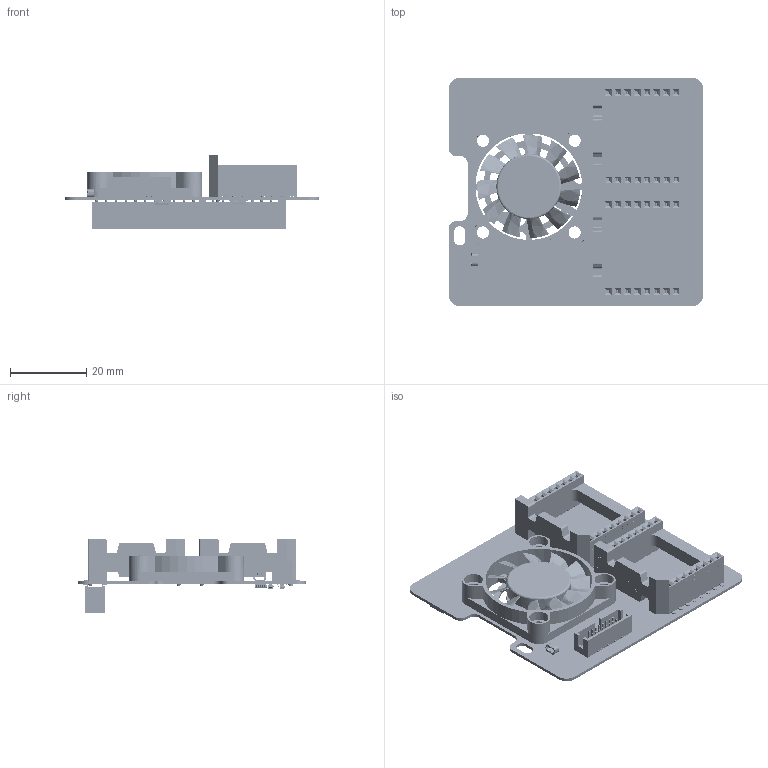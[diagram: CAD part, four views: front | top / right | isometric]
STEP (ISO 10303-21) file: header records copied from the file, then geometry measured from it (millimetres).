
FILE_DESCRIPTION(('Open CASCADE Model'),'2;1');
FILE_NAME('Open CASCADE Shape Model','2026-07-13T09:13:16',('Author'),( 'Open CASCADE'),'Open CASCADE STEP processor 7.5','Open CASCADE 7.5' ,'Unknown');
FILE_SCHEMA(('AUTOMOTIVE_DESIGN { 1 0 10303 214 1 1 1 1 }'));
Length unit declared in the file: millimetre
Products named in the file (1056): PCB; Board; Open CASCADE STEP translator 7.5 1.1.1; MB3; 10230245200; Extruded; 10230244960; 10230244720; 10230242704; 10230240400; 10230240448; 10230240160; 10230239584; 10230238768; JP3; User Library-R_0805; JP2; JP1; TP1; s1751-46r; Designator27; Fan30mm; Frame_1; Propellor_1; J4; 25972; U1; 21-0061L-M; R4; User Library-R_0402; R5; JP4; C2; User Library-SMD CAPACITOR0402; C1; D1; SOD3716X14; Q1; SOT23-3; R1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
Assembly tree (1135 placements, depth 11):
  PCB
    Board
      Open CASCADE STEP translator 7.5 1.1.1
    MB3
      10230245200
        Extruded
      10230244960
        Extruded
      10230244720  x8
        Extruded
      10230242704  x8
        Extruded
      10230240400
        Extruded
      10230240448
        Extruded
      10230240160  x2
        Extruded
      10230239584  x2
        Extruded
      10230238768  x16
        Extruded
    JP3
      User Library-R_0805
    JP2
      User Library-R_0805
    JP1
      User Library-R_0805
    TP1
      s1751-46r
    Designator27
      Fan30mm
        Frame_1
        Propellor_1
    J4
      25972  x2
      25972  x2
      25972  x2
      25972  x2
      25972  x2
      25972  x2
      25972  x2
      25972  x2
      25972  x2
      25972  x2
      25972  x2
      25972  x2
      25972  x2
      25972  x2
      25972  x2
      25972  x2
      25972  x2
      25972  x2
      25972  x2
      25972  x2
      25972  x2
    U1
      21-0061L-M
    R4
      User Library-R_0402
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Bounding box: 66.71 x 59.82 x 19.35 mm (x, y, z)
Volume: 6787.8 mm3; surface area: 25483.4 mm2
Topology: 182 solids, 6675 shells, 12476 faces, 50848 edges, 45078 vertices
Faces by surface type: plane 8602, cylinder 2688, bspline 968, cone 200, sphere 18
Full cylindrical faces by diameter (mm): 3.2 x4
Entity records: 240695 total; most frequent: CARTESIAN_POINT 60261, ORIENTED_EDGE 22935, DIRECTION 20312, EDGE_CURVE 14654, VERTEX_POINT 11782, PRESENTATION_STYLE_ASSIGNMENT 8313, LINE 7250, VECTOR 7250
